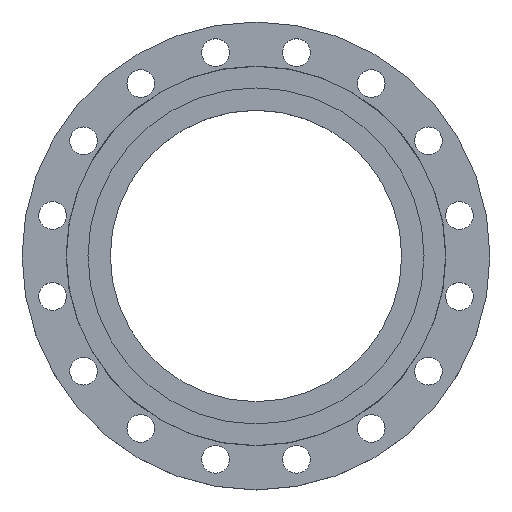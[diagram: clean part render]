
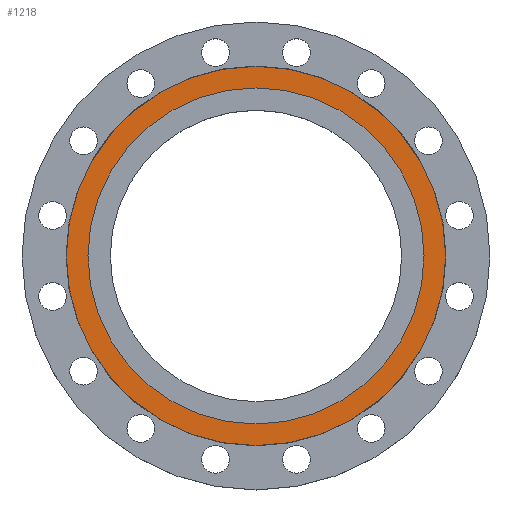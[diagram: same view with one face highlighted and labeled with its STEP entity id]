
A CAD part, top view. The second image highlights one B-rep face of the part: STEP entity #1218.
In plain terms, the highlighted planar face has unit normal (0, 0, 1).
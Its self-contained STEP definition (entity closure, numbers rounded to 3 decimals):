
#100 = CARTESIAN_POINT ( 'NONE',  ( -237., 0., 0. ) ) ;
#106 = AXIS2_PLACEMENT_3D ( 'NONE', #1412, #322, #921 ) ;
#127 = CIRCLE ( 'NONE', #106, 267.5 ) ;
#135 = CARTESIAN_POINT ( 'NONE',  ( 237., 0., 0. ) ) ;
#195 = FACE_OUTER_BOUND ( 'NONE', #626, .T. ) ;
#231 = DIRECTION ( 'NONE',  ( 0., 0., -1. ) ) ;
#251 = VERTEX_POINT ( 'NONE', #135 ) ;
#322 = DIRECTION ( 'NONE',  ( 0., 0., -1. ) ) ;
#332 = VERTEX_POINT ( 'NONE', #100 ) ;
#342 = DIRECTION ( 'NONE',  ( -1., 0., 0. ) ) ;
#429 = EDGE_LOOP ( 'NONE', ( #798, #800 ) ) ;
#441 = CIRCLE ( 'NONE', #459, 237. ) ;
#443 = DIRECTION ( 'NONE',  ( 0., 0., -1. ) ) ;
#459 = AXIS2_PLACEMENT_3D ( 'NONE', #1388, #231, #824 ) ;
#485 = CARTESIAN_POINT ( 'NONE',  ( -267.5, 0., 0. ) ) ;
#495 = AXIS2_PLACEMENT_3D ( 'NONE', #1038, #1419, #342 ) ;
#542 = EDGE_CURVE ( 'NONE', #1115, #1124, #1297, .T. ) ;
#594 = CARTESIAN_POINT ( 'NONE',  ( 267.5, 0., 0. ) ) ;
#595 = AXIS2_PLACEMENT_3D ( 'NONE', #1556, #627, #1191 ) ;
#625 = CIRCLE ( 'NONE', #495, 237. ) ;
#626 = EDGE_LOOP ( 'NONE', ( #793, #796 ) ) ;
#627 = DIRECTION ( 'NONE',  ( 0., 0., 1. ) ) ;
#685 = EDGE_CURVE ( 'NONE', #332, #251, #625, .T. ) ;
#786 = FACE_BOUND ( 'NONE', #429, .T. ) ;
#793 = ORIENTED_EDGE ( 'NONE', *, *, #542, .F. ) ;
#796 = ORIENTED_EDGE ( 'NONE', *, *, #1437, .F. ) ;
#798 = ORIENTED_EDGE ( 'NONE', *, *, #685, .T. ) ;
#800 = ORIENTED_EDGE ( 'NONE', *, *, #1309, .T. ) ;
#824 = DIRECTION ( 'NONE',  ( -1., 0., 0. ) ) ;
#921 = DIRECTION ( 'NONE',  ( -1., 0., 0. ) ) ;
#1007 = DIRECTION ( 'NONE',  ( -1., 0., 0. ) ) ;
#1038 = CARTESIAN_POINT ( 'NONE',  ( 0., 0., 0. ) ) ;
#1115 = VERTEX_POINT ( 'NONE', #485 ) ;
#1124 = VERTEX_POINT ( 'NONE', #594 ) ;
#1139 = AXIS2_PLACEMENT_3D ( 'NONE', #1468, #443, #1007 ) ;
#1191 = DIRECTION ( 'NONE',  ( 1., 0., 0. ) ) ;
#1218 = ADVANCED_FACE ( 'NONE', ( #195, #786 ), #1312, .T. ) ;
#1297 = CIRCLE ( 'NONE', #1139, 267.5 ) ;
#1309 = EDGE_CURVE ( 'NONE', #251, #332, #441, .T. ) ;
#1312 = PLANE ( 'NONE',  #595 ) ;
#1388 = CARTESIAN_POINT ( 'NONE',  ( 0., 0., 0. ) ) ;
#1412 = CARTESIAN_POINT ( 'NONE',  ( 0., 0., 0. ) ) ;
#1419 = DIRECTION ( 'NONE',  ( 0., 0., -1. ) ) ;
#1437 = EDGE_CURVE ( 'NONE', #1124, #1115, #127, .T. ) ;
#1468 = CARTESIAN_POINT ( 'NONE',  ( 0., 0., 0. ) ) ;
#1556 = CARTESIAN_POINT ( 'NONE',  ( 0., 0., 0. ) ) ;
